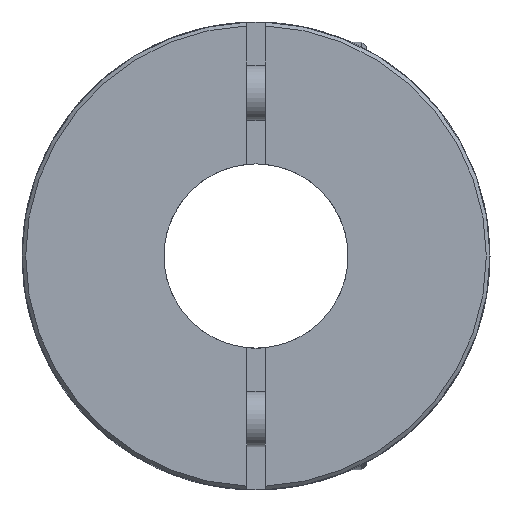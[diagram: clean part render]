
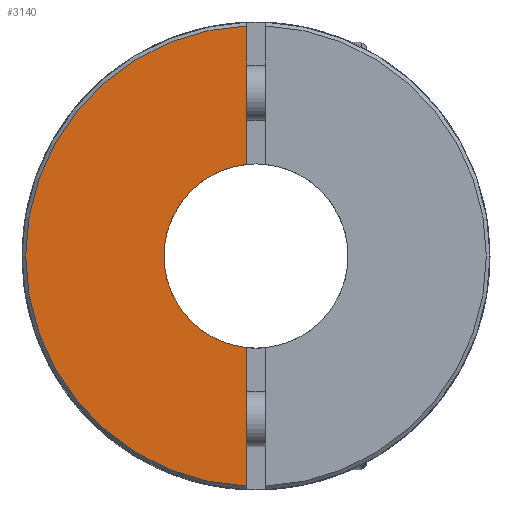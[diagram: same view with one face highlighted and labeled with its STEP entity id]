
A CAD part, front view. The second image highlights one B-rep face of the part: STEP entity #3140.
In plain terms, the highlighted planar face has unit normal (0, -1, 0).
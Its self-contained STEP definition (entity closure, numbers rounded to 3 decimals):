
#1=DIRECTION('',(0.,0.,-1.));
#2=VECTOR('',#1,7.515);
#3=CARTESIAN_POINT('',(-0.5,-15.9,12.49));
#4=LINE('',#3,#2);
#5=DIRECTION('',(0.,0.,-1.));
#6=VECTOR('',#5,7.515);
#7=CARTESIAN_POINT('',(-0.5,-15.9,-4.975));
#8=LINE('',#7,#6);
#72=CARTESIAN_POINT('',(0.,-15.9,0.));
#73=DIRECTION('',(0.,1.,0.));
#74=DIRECTION('',(-0.1,0.,-0.995));
#75=AXIS2_PLACEMENT_3D('',#72,#73,#74);
#2311=CARTESIAN_POINT('',(0.,-15.9,0.));
#2312=DIRECTION('',(0.,-1.,0.));
#2313=DIRECTION('',(-0.04,0.,0.999));
#2314=AXIS2_PLACEMENT_3D('',#2311,#2312,#2313);
#2861=CARTESIAN_POINT('',(-0.5,-15.9,12.49));
#2862=CARTESIAN_POINT('',(-0.5,-15.9,4.975));
#2863=VERTEX_POINT('',#2861);
#2864=VERTEX_POINT('',#2862);
#2865=CARTESIAN_POINT('',(-0.5,-15.9,-4.975));
#2866=CARTESIAN_POINT('',(-0.5,-15.9,-12.49));
#2867=VERTEX_POINT('',#2865);
#2868=VERTEX_POINT('',#2866);
#3125=CARTESIAN_POINT('',(0.,-15.9,0.));
#3126=DIRECTION('',(0.,1.,0.));
#3127=DIRECTION('',(1.,0.,0.));
#3128=AXIS2_PLACEMENT_3D('',#3125,#3126,#3127);
#3129=PLANE('',#3128);
#3131=ORIENTED_EDGE('',*,*,#3130,.T.);
#3133=ORIENTED_EDGE('',*,*,#3132,.F.);
#3135=ORIENTED_EDGE('',*,*,#3134,.T.);
#3137=ORIENTED_EDGE('',*,*,#3136,.F.);
#3138=EDGE_LOOP('',(#3131,#3133,#3135,#3137));
#3139=FACE_OUTER_BOUND('',#3138,.F.);
#3140=ADVANCED_FACE('',(#3139),#3129,.F.);
#76=CIRCLE('',#75,5.);
#2315=CIRCLE('',#2314,12.5);
#3130=EDGE_CURVE('',#2863,#2864,#4,.T.);
#3132=EDGE_CURVE('',#2867,#2864,#76,.T.);
#3134=EDGE_CURVE('',#2867,#2868,#8,.T.);
#3136=EDGE_CURVE('',#2863,#2868,#2315,.T.);
